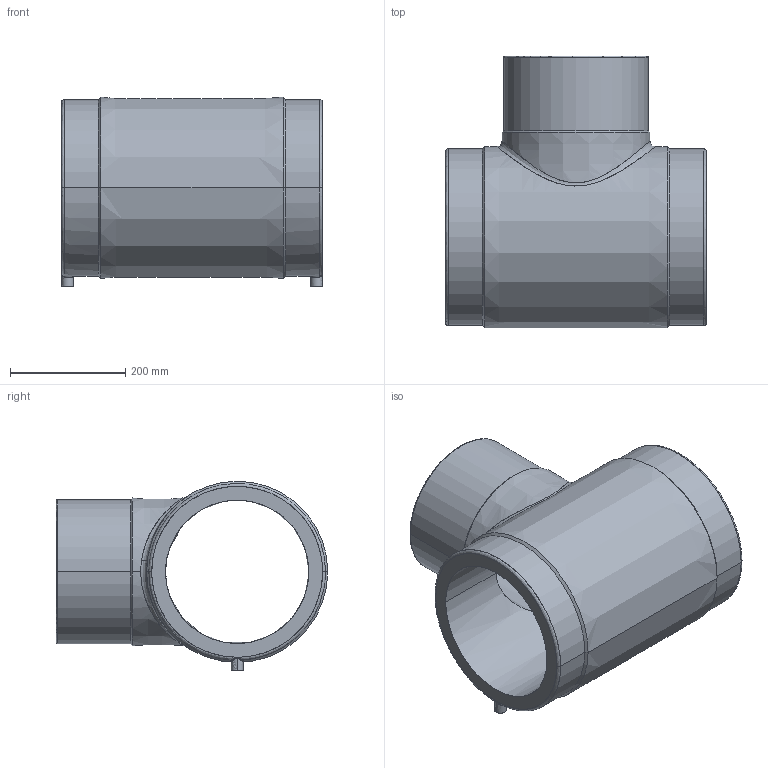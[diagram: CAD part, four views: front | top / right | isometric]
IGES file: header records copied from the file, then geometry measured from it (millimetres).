
Start section: SolidWorks IGES file using analytic representation for surfaces
Global section: file name: \\DOWNSHIFT.fusion-group.net\FR$\hwegrzynska\Desktop\KELLY HEARNSHAW\CAD Offering - Website\GH-Equal tee\ETBKHA250.IGS; native system: SolidWorks 2019; preprocessor: SolidWorks 2019; author: hwegrzynska; date: 200424.114921; units: millimetre
Bounding box: 452 x 470.5 x 328.5 mm (x, y, z)
Surface area: 1055289.3 mm2 (no closed solid volume)
Topology: 0 solids, 0 shells, 61 faces, 1414 edges, 1410 vertices
Faces by surface type: revolution 36, bspline 25
